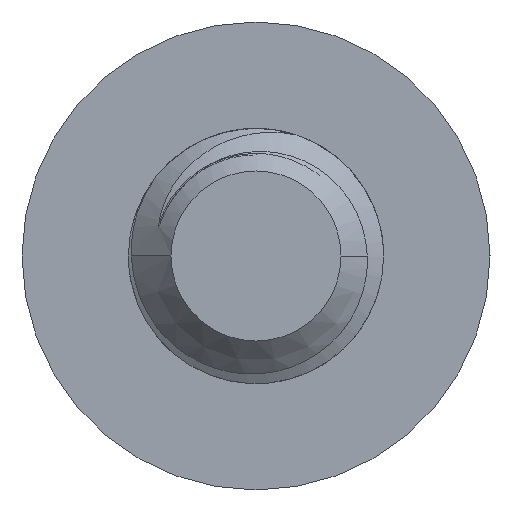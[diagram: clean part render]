
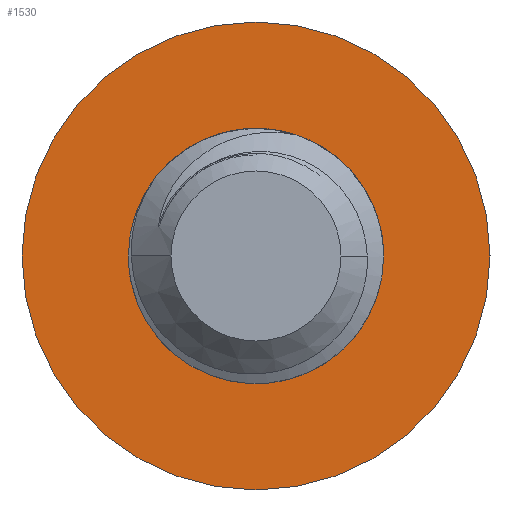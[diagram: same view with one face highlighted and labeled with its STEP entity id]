
A CAD part, front view. The second image highlights one B-rep face of the part: STEP entity #1530.
In plain terms, the highlighted planar face has unit normal (0, -1, 0).
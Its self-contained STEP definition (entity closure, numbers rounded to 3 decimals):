
#336 = AXIS2_PLACEMENT_3D ( 'NONE', #5199, #5200, #5201 ) ;
#338 = AXIS2_PLACEMENT_3D ( 'NONE', #1217, #1215, #1214 ) ;
#457 = AXIS2_PLACEMENT_3D ( 'NONE', #3257, #3258, #3249 ) ;
#560 = VERTEX_POINT ( 'NONE', #3452 ) ;
#561 = VERTEX_POINT ( 'NONE', #3438 ) ;
#632 = VERTEX_POINT ( 'NONE', #3150 ) ;
#669 = VERTEX_POINT ( 'NONE', #3052 ) ;
#733 = EDGE_LOOP ( 'NONE', ( #3772, #3773 ) ) ;
#735 = EDGE_LOOP ( 'NONE', ( #3770, #3771 ) ) ;
#813 = CIRCLE ( 'NONE', #1338, 2.75 ) ;
#904 = FACE_BOUND ( 'NONE', #733, .T. ) ;
#917 = FACE_OUTER_BOUND ( 'NONE', #735, .T. ) ;
#1214 = DIRECTION ( 'NONE',  ( -1., 0., 0. ) ) ;
#1215 = DIRECTION ( 'NONE',  ( 0., 1., 0. ) ) ;
#1217 = CARTESIAN_POINT ( 'NONE',  ( 0., 0., 0. ) ) ;
#1326 = AXIS2_PLACEMENT_3D ( 'NONE', #5354, #5355, #5356 ) ;
#1338 = AXIS2_PLACEMENT_3D ( 'NONE', #5398, #5399, #5400 ) ;
#1530 = ADVANCED_FACE ( 'NONE', ( #917, #904 ), #3251, .F. ) ;
#3052 = CARTESIAN_POINT ( 'NONE',  ( -2.75, 0., 0. ) ) ;
#3150 = CARTESIAN_POINT ( 'NONE',  ( -1.5, 0., 0. ) ) ;
#3249 = DIRECTION ( 'NONE',  ( -1., 0., 0. ) ) ;
#3251 = PLANE ( 'NONE',  #457 ) ;
#3257 = CARTESIAN_POINT ( 'NONE',  ( 1.5, 0., 0. ) ) ;
#3258 = DIRECTION ( 'NONE',  ( 0., 1., 0. ) ) ;
#3438 = CARTESIAN_POINT ( 'NONE',  ( 1.5, 0., 0. ) ) ;
#3452 = CARTESIAN_POINT ( 'NONE',  ( 2.75, 0., 0. ) ) ;
#3770 = ORIENTED_EDGE ( 'NONE', *, *, #5134, .F. ) ;
#3771 = ORIENTED_EDGE ( 'NONE', *, *, #5128, .F. ) ;
#3772 = ORIENTED_EDGE ( 'NONE', *, *, #5008, .T. ) ;
#3773 = ORIENTED_EDGE ( 'NONE', *, *, #5103, .T. ) ;
#5008 = EDGE_CURVE ( 'NONE', #632, #561, #5598, .T. ) ;
#5103 = EDGE_CURVE ( 'NONE', #561, #632, #5566, .T. ) ;
#5128 = EDGE_CURVE ( 'NONE', #560, #669, #5555, .T. ) ;
#5134 = EDGE_CURVE ( 'NONE', #669, #560, #813, .T. ) ;
#5199 = CARTESIAN_POINT ( 'NONE',  ( 0., 0., 0. ) ) ;
#5200 = DIRECTION ( 'NONE',  ( 0., 1., 0. ) ) ;
#5201 = DIRECTION ( 'NONE',  ( -1., 0., 0. ) ) ;
#5354 = CARTESIAN_POINT ( 'NONE',  ( 0., 0., 0. ) ) ;
#5355 = DIRECTION ( 'NONE',  ( 0., 1., 0. ) ) ;
#5356 = DIRECTION ( 'NONE',  ( -1., 0., 0. ) ) ;
#5398 = CARTESIAN_POINT ( 'NONE',  ( 0., 0., 0. ) ) ;
#5399 = DIRECTION ( 'NONE',  ( 0., 1., 0. ) ) ;
#5400 = DIRECTION ( 'NONE',  ( -1., 0., 0. ) ) ;
#5555 = CIRCLE ( 'NONE', #1326, 2.75 ) ;
#5566 = CIRCLE ( 'NONE', #336, 1.5 ) ;
#5598 = CIRCLE ( 'NONE', #338, 1.5 ) ;
